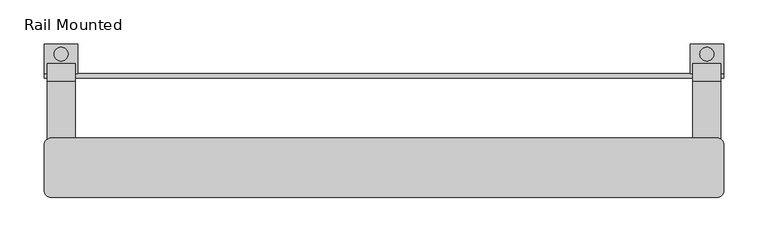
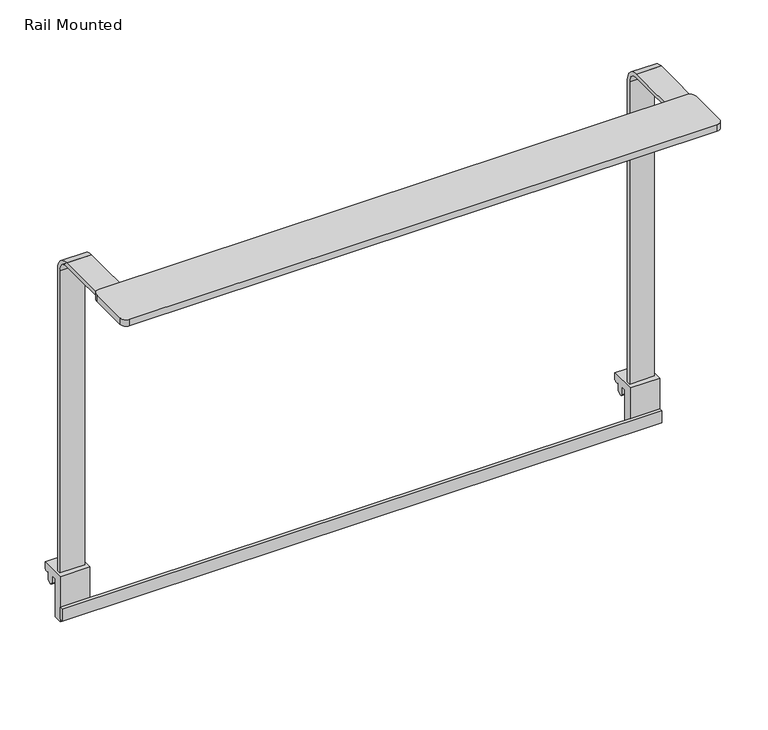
"""IFC4 building model written with IfcOpenShell, lengths in millimetres: furniture geometry, Steelcase - Answer Solution - Lighting - LED Personal Task Light : Rail Mounted."""

from ifc_helpers import new_model, si_unit, point, frame, frame_2d, origin, place, context, project, spatial, polyline, circle_curve, trimmed, segment, composite_curve, outline, extrude, source, transform, mapped, element, save


def rail_mounted_95e6053c(model_context):
    return source(origin(), model_context, "Body", "SweptSolid", [
        extrude(outline(composite_curve([segment(polyline([(35.4583916, 1162.0754345), (131.4763265, 1162.0754345)]), True, "CONTINUOUS"), segment(trimmed(circle_curve(frame_2d((131.4763265, 1142.3201626)), 19.7552719), [point((131.4763265, 1162.0754345))], [point((151.2315984, 1142.3201626))], False, "CARTESIAN"), True, "CONTINUOUS"), segment(polyline([(151.2315984, 1142.3201626), (151.2315984, 733.425), (146.4563993, 733.425), (146.4563993, 1142.5251558)]), True, "CONTINUOUS"), segment(trimmed(circle_curve(frame_2d((131.6813379, 1142.5251558)), 14.7750614), [point((146.4563993, 1142.5251558))], [point((131.6813379, 1157.3002172))], True, "CARTESIAN"), True, "CONTINUOUS"), segment(polyline([(131.6813379, 1157.3002172), (35.4583916, 1157.3002172), (35.4583916, 1162.0754345)]), True, "CONTINUOUS")], self_intersect=False)), frame((348.8842695, 0.0, 0.0), z_axis=(1.0, 0.0, 0.0), x_axis=(0.0, 1.0, 0.0)), (0.0, 0.0, 1.0), 31.7500008),
        extrude(outline(polyline([(173.4565976, 733.425), (173.4565976, 723.8745655), (171.5515972, 723.8745655), (171.5515972, 722.7411076), (168.3511975, 722.7411076), (168.3511975, 723.8745655), (166.4715975, 723.8745655), (166.4715975, 713.2827702), (161.5439981, 710.8189671), (159.6389976, 710.8189671), (159.6389976, 713.359001), (158.1149975, 713.359001), (158.1149975, 723.9), (151.2315984, 723.9), (151.2315984, 672.338031), (139.9793964, 672.338031), (139.9793964, 733.425), (173.4565976, 733.425)])), frame((345.7092453, 0.0, 0.0), z_axis=(1.0, 0.0, 0.0), x_axis=(0.0, 1.0, 0.0)), (0.0, 0.0, 1.0), 38.1),
        extrude(outline(composite_curve([segment(polyline([(-362.1149256, 166.4715975), (-372.4711248, 166.4715975), (-373.1501456, 167.7485948)]), True, "CONTINUOUS"), segment(trimmed(circle_curve(frame_2d((-372.4773478, 168.1063432)), 0.7619979), [point((-373.1501456, 167.7485948))], [point((-373.1235565, 168.510144))], False, "CARTESIAN"), True, "CONTINUOUS"), segment(polyline([(-373.1235565, 168.510144), (-372.1306672, 170.0990801)]), True, "CONTINUOUS"), segment(trimmed(circle_curve(frame_2d((-371.3371629, 169.6032376)), 0.9356864), [point((-372.1306672, 170.0990801))], [point((-371.3371629, 170.5389239))], False, "CARTESIAN"), True, "CONTINUOUS"), segment(polyline([(-371.3371629, 170.5389239), (-365.5367994, 170.5389239)]), True, "CONTINUOUS"), segment(trimmed(circle_curve(frame_2d((-365.5367994, 168.4432059)), 2.095718), [point((-365.5367994, 170.5389239))], [point((-363.6863911, 169.4270877))], False, "CARTESIAN"), True, "CONTINUOUS"), segment(polyline([(-363.6863911, 169.4270877), (-362.1149256, 166.4715975)]), True, "CONTINUOUS")], self_intersect=False)), frame((0.0, 0.0, 716.026), z_axis=(0.0, 0.0, 1.0), x_axis=(1.0, 0.0, 0.0)), (0.0, 0.0, 1.0), 3.175),
        extrude(outline(composite_curve([segment(polyline([(-368.0276498, 158.1149968), (-357.6714505, 158.1149968), (-356.9200097, 156.7018031)]), True, "CONTINUOUS"), segment(trimmed(circle_curve(frame_2d((-357.5928075, 156.3440547)), 0.7619979), [point((-356.9200097, 156.7018031))], [point((-356.9465985, 155.9402542))], False, "CARTESIAN"), True, "CONTINUOUS"), segment(polyline([(-356.9465985, 155.9402542), (-357.9395968, 154.3511416)]), True, "CONTINUOUS"), segment(trimmed(circle_curve(frame_2d((-358.7331015, 154.8469836)), 0.9356864), [point((-357.9395968, 154.3511416))], [point((-358.7331015, 153.9112972))], False, "CARTESIAN"), True, "CONTINUOUS"), segment(polyline([(-358.7331015, 153.9112972), (-364.5332649, 153.9112972)]), True, "CONTINUOUS"), segment(trimmed(circle_curve(frame_2d((-364.5332649, 156.0070152)), 2.095718), [point((-364.5332649, 153.9112972))], [point((-366.3836731, 155.0231335))], False, "CARTESIAN"), True, "CONTINUOUS"), segment(polyline([(-366.3836731, 155.0231335), (-368.0276498, 158.1149968)]), True, "CONTINUOUS")], self_intersect=False)), frame((0.0, 0.0, 716.026), z_axis=(0.0, 0.0, 1.0), x_axis=(1.0, 0.0, 0.0)), (0.0, 0.0, 1.0), 3.175),
        extrude(outline(composite_curve([segment(polyline([(368.7716457, 166.4715975), (358.4154464, 166.4715975), (357.7364256, 167.7485948)]), True, "CONTINUOUS"), segment(trimmed(circle_curve(frame_2d((358.4092235, 168.1063432)), 0.7619979), [point((357.7364256, 167.7485948))], [point((357.7630148, 168.510144))], False, "CARTESIAN"), True, "CONTINUOUS"), segment(polyline([(357.7630148, 168.510144), (358.755904, 170.0990801)]), True, "CONTINUOUS"), segment(trimmed(circle_curve(frame_2d((359.5494084, 169.6032376)), 0.9356864), [point((358.755904, 170.0990801))], [point((359.5494084, 170.5389239))], False, "CARTESIAN"), True, "CONTINUOUS"), segment(polyline([(359.5494084, 170.5389239), (365.3497719, 170.5389239)]), True, "CONTINUOUS"), segment(trimmed(circle_curve(frame_2d((365.3497719, 168.4432059)), 2.095718), [point((365.3497719, 170.5389239))], [point((367.2001801, 169.4270877))], False, "CARTESIAN"), True, "CONTINUOUS"), segment(polyline([(367.2001801, 169.4270877), (368.7716457, 166.4715975)]), True, "CONTINUOUS")], self_intersect=False)), frame((0.0, 0.0, 716.026), z_axis=(0.0, 0.0, 1.0), x_axis=(1.0, 0.0, 0.0)), (0.0, 0.0, 1.0), 3.175),
        extrude(outline(composite_curve([segment(polyline([(362.8589215, 158.1149968), (373.2151208, 158.1149968), (373.9665616, 156.7018031)]), True, "CONTINUOUS"), segment(trimmed(circle_curve(frame_2d((373.2937638, 156.3440547)), 0.7619979), [point((373.9665616, 156.7018031))], [point((373.9399727, 155.9402542))], False, "CARTESIAN"), True, "CONTINUOUS"), segment(polyline([(373.9399727, 155.9402542), (372.9469744, 154.3511416)]), True, "CONTINUOUS"), segment(trimmed(circle_curve(frame_2d((372.1534698, 154.8469836)), 0.9356864), [point((372.9469744, 154.3511416))], [point((372.1534698, 153.9112972))], False, "CARTESIAN"), True, "CONTINUOUS"), segment(polyline([(372.1534698, 153.9112972), (366.3533064, 153.9112972)]), True, "CONTINUOUS"), segment(trimmed(circle_curve(frame_2d((366.3533064, 156.0070152)), 2.095718), [point((366.3533064, 153.9112972))], [point((364.5028981, 155.0231335))], False, "CARTESIAN"), True, "CONTINUOUS"), segment(polyline([(364.5028981, 155.0231335), (362.8589215, 158.1149968)]), True, "CONTINUOUS")], self_intersect=False)), frame((0.0, 0.0, 716.026), z_axis=(0.0, 0.0, 1.0), x_axis=(1.0, 0.0, 0.0)), (0.0, 0.0, 1.0), 3.175),
        extrude(outline(composite_curve([segment(trimmed(circle_curve(frame_2d((-364.770498, 162.2153427)), 7.8627365), [point((-372.6332345, 162.2153427))], [point((-356.9077615, 162.2153427))], False, "CARTESIAN"), True, "CONTINUOUS"), segment(trimmed(circle_curve(frame_2d((-364.770498, 162.2153427)), 7.8627365), [point((-356.9077615, 162.2153427))], [point((-372.6332345, 162.2153427))], False, "CARTESIAN"), True, "CONTINUOUS")], self_intersect=False)), frame((0.0, 0.0, 733.425), z_axis=(0.0, 0.0, 1.0), x_axis=(1.0, 0.0, 0.0)), (0.0, 0.0, 1.0), 6.35),
        extrude(outline(composite_curve([segment(trimmed(circle_curve(frame_2d((364.7202248, 162.2153427)), 7.8627365), [point((356.8574883, 162.2153427))], [point((372.5829613, 162.2153427))], False, "CARTESIAN"), True, "CONTINUOUS"), segment(trimmed(circle_curve(frame_2d((364.7202248, 162.2153427)), 7.8627365), [point((372.5829613, 162.2153427))], [point((356.8574883, 162.2153427))], False, "CARTESIAN"), True, "CONTINUOUS")], self_intersect=False)), frame((0.0, 0.0, 733.425), z_axis=(0.0, 0.0, 1.0), x_axis=(1.0, 0.0, 0.0)), (0.0, 0.0, 1.0), 6.35),
        extrude(outline(composite_curve([segment(polyline([(-367.2673772, 61.7219956), (366.9436807, 61.7219956)]), True, "CONTINUOUS"), segment(trimmed(circle_curve(frame_2d((366.9436807, 55.3719956)), 6.35), [point((366.9436807, 61.7219956))], [point((373.2936807, 55.3719956))], False, "CARTESIAN"), True, "CONTINUOUS"), segment(polyline([(373.2936807, 55.3719956), (373.2936807, 15.6717963)]), True, "CONTINUOUS"), segment(trimmed(circle_curve(frame_2d((367.1976807, 15.6717963)), 6.096), [point((373.2936807, 15.6717963))], [point((367.1976807, 9.5757963))], False, "CARTESIAN"), True, "CONTINUOUS"), segment(polyline([(367.1976807, 9.5757963), (-367.1976347, 9.5757963)]), True, "CONTINUOUS"), segment(trimmed(circle_curve(frame_2d((-367.1976347, 15.6717963)), 6.096), [point((-367.1976347, 9.5757963))], [point((-373.2936347, 15.6717963))], False, "CARTESIAN"), True, "CONTINUOUS"), segment(polyline([(-373.2936347, 15.6717963), (-373.2936347, 55.6957381)]), True, "CONTINUOUS"), segment(trimmed(circle_curve(frame_2d((-367.2673772, 55.6957381)), 6.0262575), [point((-373.2936347, 55.6957381))], [point((-367.2673772, 61.7219956))], False, "CARTESIAN"), True, "CONTINUOUS")], self_intersect=False)), frame((0.0, 0.0, 1150.5692), z_axis=(0.0, 0.0, 1.0), x_axis=(1.0, 0.0, 0.0)), (0.0, 0.0, 1.0), 4.5212),
        extrude(outline(composite_curve([segment(polyline([(-375.7287095, 67.2083977), (375.8702333, 67.2083977)]), True, "CONTINUOUS"), segment(trimmed(circle_curve(frame_2d((375.8702333, 59.2693858)), 7.9390119), [point((375.8702333, 67.2083977))], [point((383.8092453, 59.2693858))], False, "CARTESIAN"), True, "CONTINUOUS"), segment(polyline([(383.8092453, 59.2693858), (383.8092453, 7.5933062)]), True, "CONTINUOUS"), segment(trimmed(circle_curve(frame_2d((376.2159391, 7.5933062)), 7.5933062), [point((383.8092453, 7.5933062))], [point((376.2159391, 0.0))], False, "CARTESIAN"), True, "CONTINUOUS"), segment(polyline([(376.2159391, 0.0), (-375.9202883, 0.0)]), True, "CONTINUOUS"), segment(trimmed(circle_curve(frame_2d((-375.9202883, 7.8889462)), 7.8889462), [point((-375.9202883, 0.0))], [point((-383.8092345, 7.8889462))], False, "CARTESIAN"), True, "CONTINUOUS"), segment(polyline([(-383.8092345, 7.8889462), (-383.8092345, 59.1278727)]), True, "CONTINUOUS"), segment(trimmed(circle_curve(frame_2d((-375.7287095, 59.1278727)), 8.0805249), [point((-383.8092345, 59.1278727))], [point((-375.7287095, 67.2083977))], False, "CARTESIAN"), True, "CONTINUOUS")], self_intersect=False)), frame((0.0, 0.0, 1155.0904), z_axis=(0.0, 0.0, 1.0), x_axis=(1.0, 0.0, 0.0)), (0.0, 0.0, 1.0), 8.6868),
        extrude(outline(composite_curve([segment(polyline([(35.4583916, 1162.0754345), (131.4763265, 1162.0754345)]), True, "CONTINUOUS"), segment(trimmed(circle_curve(frame_2d((131.4763265, 1142.3201626)), 19.7552719), [point((131.4763265, 1162.0754345))], [point((151.2315984, 1142.3201626))], False, "CARTESIAN"), True, "CONTINUOUS"), segment(polyline([(151.2315984, 1142.3201626), (151.2315984, 733.425), (146.4563993, 733.425), (146.4563993, 1142.5251558)]), True, "CONTINUOUS"), segment(trimmed(circle_curve(frame_2d((131.6813379, 1142.5251558)), 14.7750614), [point((146.4563993, 1142.5251558))], [point((131.6813379, 1157.3002172))], True, "CARTESIAN"), True, "CONTINUOUS"), segment(polyline([(131.6813379, 1157.3002172), (35.4583916, 1157.3002172), (35.4583916, 1162.0754345)]), True, "CONTINUOUS")], self_intersect=False)), frame((-380.6342345, 0.0, 0.0), z_axis=(1.0, 0.0, 0.0), x_axis=(0.0, 1.0, 0.0)), (0.0, 0.0, 1.0), 31.7500008),
        extrude(outline(polyline([(383.8092455, 139.9793964), (383.8092455, 135.2041973), (-383.8092345, 135.2041973), (-383.8092345, 139.9793964), (383.8092455, 139.9793964)])), frame((0.0, 0.0, 676.0845), z_axis=(0.0, 0.0, 1.0), x_axis=(1.0, 0.0, 0.0)), (0.0, 0.0, 1.0), 15.875),
        extrude(outline(polyline([(173.4565976, 733.425), (173.4565976, 723.8745655), (171.5515972, 723.8745655), (171.5515972, 722.7411076), (168.3511975, 722.7411076), (168.3511975, 723.8745655), (166.4715975, 723.8745655), (166.4715975, 713.2827702), (161.5439981, 710.8189671), (159.6389976, 710.8189671), (159.6389976, 713.359001), (158.1149975, 713.359001), (158.1149975, 723.9), (151.2315984, 723.9), (151.2315984, 672.338031), (139.9793964, 672.338031), (139.9793964, 733.425), (173.4565976, 733.425)])), frame((-383.8092345, 0.0, 0.0), z_axis=(1.0, 0.0, 0.0), x_axis=(0.0, 1.0, 0.0)), (0.0, 0.0, 1.0), 38.1),
    ])


if __name__ == "__main__":
    model = new_model("IFC4")
    model_context = context("Model", 3, world=origin())
    ifc_project = project(units=[si_unit("LENGTHUNIT", "METRE", prefix="MILLI")], contexts=[model_context])
    site = spatial("IfcSite", under=ifc_project)
    building = spatial("IfcBuilding", under=site)
    placement = place(None, origin())
    rail_mounted_shape = rail_mounted_95e6053c(model_context)
    element("IfcFurniture", 1, ObjectType="Steelcase - Answer Solution - Lighting - LED Personal Task Light : Rail Mounted", at=placement, inside=building, context=model_context, shape_type="MappedRepresentation", body=[
        mapped(rail_mounted_shape, transform((0.0, 0.0, 0.0), x_axis=(1.0, 0.0, 0.0), y_axis=(0.0, 1.0, 0.0), z_axis=(0.0, 0.0, 1.0))),
    ])
    save(model, "model.ifc")
